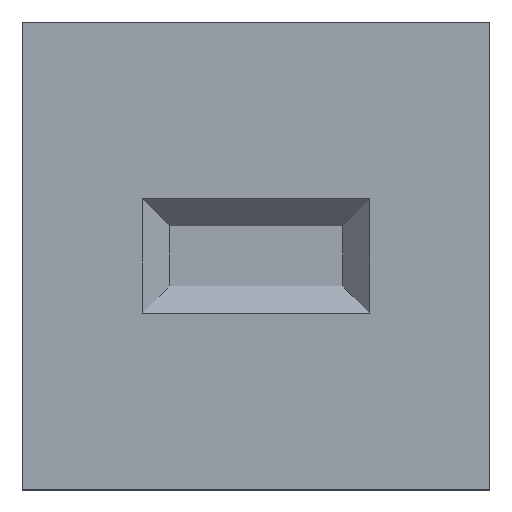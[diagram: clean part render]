
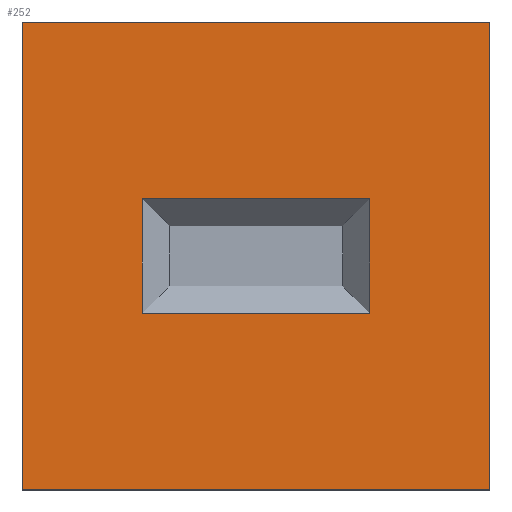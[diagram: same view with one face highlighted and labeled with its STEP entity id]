
A CAD part, top view. The second image highlights one B-rep face of the part: STEP entity #252.
In plain terms, the highlighted planar face has unit normal (0, 0, 1).
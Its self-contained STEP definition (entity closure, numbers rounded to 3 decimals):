
#88=CARTESIAN_POINT('',(1.39,3.36,0.31));
#89=VERTEX_POINT('',#88);
#90=CARTESIAN_POINT('',(1.39,2.04,0.31));
#91=VERTEX_POINT('',#90);
#92=CARTESIAN_POINT('',(1.39,3.36,0.31));
#93=DIRECTION('',(-0.,-1.,-0.));
#94=VECTOR('',#93,1.32);
#95=LINE('',#92,#94);
#96=EDGE_CURVE('',#89,#91,#95,.T.);
#128=CARTESIAN_POINT('',(4.01,2.04,0.31));
#129=VERTEX_POINT('',#128);
#130=CARTESIAN_POINT('',(1.39,2.04,0.31));
#131=DIRECTION('',(1.,0.,-0.));
#132=VECTOR('',#131,2.62);
#133=LINE('',#130,#132);
#134=EDGE_CURVE('',#91,#129,#133,.T.);
#168=CARTESIAN_POINT('',(4.01,3.36,0.31));
#169=VERTEX_POINT('',#168);
#170=CARTESIAN_POINT('',(4.01,2.04,0.31));
#171=DIRECTION('',(0.,1.,0.));
#172=VECTOR('',#171,1.32);
#173=LINE('',#170,#172);
#174=EDGE_CURVE('',#129,#169,#173,.T.);
#190=CARTESIAN_POINT('',(4.01,3.36,0.31));
#191=DIRECTION('',(-1.,-0.,0.));
#192=VECTOR('',#191,2.62);
#193=LINE('',#190,#192);
#194=EDGE_CURVE('',#169,#89,#193,.T.);
#207=CARTESIAN_POINT('',(2.7,2.7,0.31));
#208=DIRECTION('',(0.,0.,1.));
#209=DIRECTION('',(1.,0.,0.));
#210=AXIS2_PLACEMENT_3D('',#207,#208,#209);
#211=PLANE('',#210);
#212=CARTESIAN_POINT('',(0.,5.4,0.31));
#213=VERTEX_POINT('',#212);
#214=CARTESIAN_POINT('',(0.,0.,0.31));
#215=VERTEX_POINT('',#214);
#216=CARTESIAN_POINT('',(0.,5.4,0.31));
#217=DIRECTION('',(-0.,-1.,-0.));
#218=VECTOR('',#217,5.4);
#219=LINE('',#216,#218);
#220=EDGE_CURVE('',#213,#215,#219,.T.);
#221=ORIENTED_EDGE('',*,*,#220,.T.);
#222=CARTESIAN_POINT('',(5.4,0.,0.31));
#223=VERTEX_POINT('',#222);
#224=CARTESIAN_POINT('',(0.,0.,0.31));
#225=DIRECTION('',(1.,0.,-0.));
#226=VECTOR('',#225,5.4);
#227=LINE('',#224,#226);
#228=EDGE_CURVE('',#215,#223,#227,.T.);
#229=ORIENTED_EDGE('',*,*,#228,.T.);
#230=CARTESIAN_POINT('',(5.4,5.4,0.31));
#231=VERTEX_POINT('',#230);
#232=CARTESIAN_POINT('',(5.4,0.,0.31));
#233=DIRECTION('',(0.,1.,0.));
#234=VECTOR('',#233,5.4);
#235=LINE('',#232,#234);
#236=EDGE_CURVE('',#223,#231,#235,.T.);
#237=ORIENTED_EDGE('',*,*,#236,.T.);
#238=CARTESIAN_POINT('',(5.4,5.4,0.31));
#239=DIRECTION('',(-1.,-0.,0.));
#240=VECTOR('',#239,5.4);
#241=LINE('',#238,#240);
#242=EDGE_CURVE('',#231,#213,#241,.T.);
#243=ORIENTED_EDGE('',*,*,#242,.T.);
#244=EDGE_LOOP('',(#221,#229,#237,#243));
#245=FACE_BOUND('',#244,.T.);
#246=ORIENTED_EDGE('',*,*,#96,.F.);
#247=ORIENTED_EDGE('',*,*,#194,.F.);
#248=ORIENTED_EDGE('',*,*,#174,.F.);
#249=ORIENTED_EDGE('',*,*,#134,.F.);
#250=EDGE_LOOP('',(#246,#247,#248,#249));
#251=FACE_BOUND('',#250,.T.);
#252=ADVANCED_FACE('',(#245,#251),#211,.T.);
